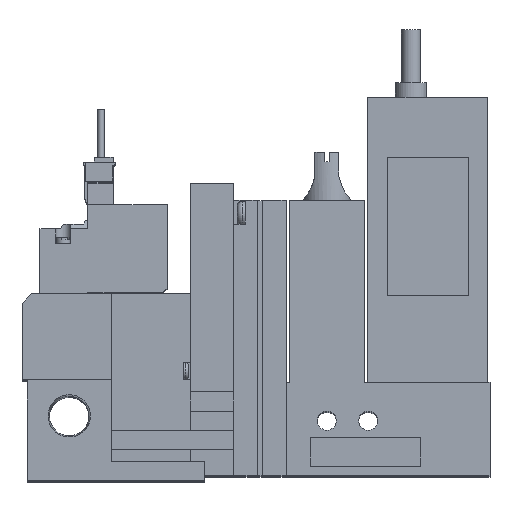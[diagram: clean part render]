
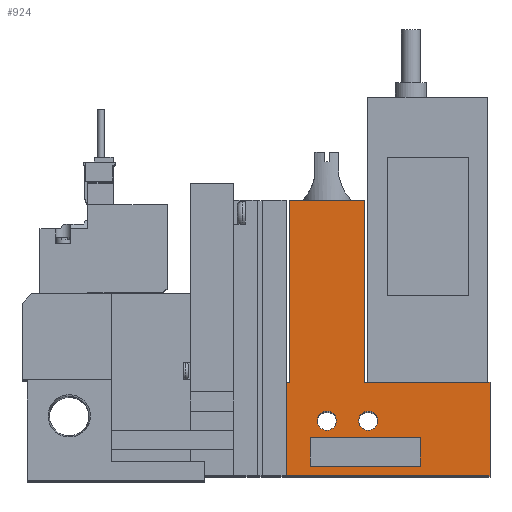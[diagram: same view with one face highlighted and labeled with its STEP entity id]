
A CAD part, top view. The second image highlights one B-rep face of the part: STEP entity #924.
In plain terms, the highlighted planar face has unit normal (0, 0, 1).
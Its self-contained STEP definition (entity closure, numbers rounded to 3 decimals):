
#924=ADVANCED_FACE('',(#1858,#1859,#1860,#1861),#1862,.T.);
#1858=FACE_BOUND('',#3113,.T.);
#1859=FACE_BOUND('',#3114,.T.);
#1860=FACE_BOUND('',#3115,.T.);
#1861=FACE_OUTER_BOUND('',#3116,.T.);
#1862=PLANE('',#3117);
#3113=EDGE_LOOP('',(#6427,#6428,#6429,#6430));
#3114=EDGE_LOOP('',(#6431));
#3115=EDGE_LOOP('',(#6432));
#3116=EDGE_LOOP('',(#6433,#6434,#6435,#6436,#6437,#6438,#6439,#6440));
#3117=AXIS2_PLACEMENT_3D('',#6441,#6442,#6443);
#6427=ORIENTED_EDGE('',*,*,#8479,.T.);
#6428=ORIENTED_EDGE('',*,*,#8628,.T.);
#6429=ORIENTED_EDGE('',*,*,#8535,.T.);
#6430=ORIENTED_EDGE('',*,*,#8370,.T.);
#6431=ORIENTED_EDGE('',*,*,#8392,.T.);
#6432=ORIENTED_EDGE('',*,*,#8397,.T.);
#6433=ORIENTED_EDGE('',*,*,#8505,.F.);
#6434=ORIENTED_EDGE('',*,*,#8584,.T.);
#6435=ORIENTED_EDGE('',*,*,#8488,.T.);
#6436=ORIENTED_EDGE('',*,*,#8473,.T.);
#6437=ORIENTED_EDGE('',*,*,#8629,.T.);
#6438=ORIENTED_EDGE('',*,*,#8598,.T.);
#6439=ORIENTED_EDGE('',*,*,#8497,.T.);
#6440=ORIENTED_EDGE('',*,*,#8630,.T.);
#6441=CARTESIAN_POINT('',(0.0,0.0,10.0));
#6442=DIRECTION('',(0.0,0.0,1.0));
#6443=DIRECTION('',(1.0,0.0,0.0));
#8370=EDGE_CURVE('',#10081,#10086,#10088,.T.);
#8392=EDGE_CURVE('',#10131,#10131,#10132,.T.);
#8397=EDGE_CURVE('',#10141,#10141,#10142,.T.);
#8473=EDGE_CURVE('',#10275,#10273,#10276,.T.);
#8479=EDGE_CURVE('',#10086,#10284,#10286,.T.);
#8488=EDGE_CURVE('',#10302,#10275,#10303,.T.);
#8497=EDGE_CURVE('',#10315,#10313,#10316,.T.);
#8505=EDGE_CURVE('',#10327,#10329,#10330,.T.);
#8535=EDGE_CURVE('',#10375,#10081,#10379,.T.);
#8584=EDGE_CURVE('',#10327,#10302,#10458,.T.);
#8598=EDGE_CURVE('',#10479,#10315,#10480,.T.);
#8628=EDGE_CURVE('',#10284,#10375,#10517,.T.);
#8629=EDGE_CURVE('',#10273,#10479,#10518,.T.);
#8630=EDGE_CURVE('',#10313,#10329,#10519,.T.);
#10081=VERTEX_POINT('',#12859);
#10086=VERTEX_POINT('',#12866);
#10088=LINE('',#12869,#12870);
#10131=VERTEX_POINT('',#12932);
#10132=CIRCLE('',#12933,2.0);
#10141=VERTEX_POINT('',#12946);
#10142=CIRCLE('',#12947,2.0);
#10273=VERTEX_POINT('',#13191);
#10275=VERTEX_POINT('',#13194);
#10276=LINE('',#13195,#13196);
#10284=VERTEX_POINT('',#13207);
#10286=LINE('',#13210,#13211);
#10302=VERTEX_POINT('',#13233);
#10303=LINE('',#13234,#13235);
#10313=VERTEX_POINT('',#13250);
#10315=VERTEX_POINT('',#13253);
#10316=LINE('',#13254,#13255);
#10327=VERTEX_POINT('',#13272);
#10329=VERTEX_POINT('',#13275);
#10330=LINE('',#13276,#13277);
#10375=VERTEX_POINT('',#13346);
#10379=LINE('',#13352,#13353);
#10458=LINE('',#13479,#13480);
#10479=VERTEX_POINT('',#13510);
#10480=LINE('',#13511,#13512);
#10517=LINE('',#13576,#13577);
#10518=LINE('',#13578,#13579);
#10519=LINE('',#13580,#13581);
#12859=CARTESIAN_POINT('',(83.1,2.0,10.0));
#12866=CARTESIAN_POINT('',(60.1,2.0,10.0));
#12869=CARTESIAN_POINT('',(0.0,2.0,10.0));
#12870=VECTOR('',#15447,1.0);
#12932=CARTESIAN_POINT('',(65.6,11.5,10.0));
#12933=AXIS2_PLACEMENT_3D('',#15473,#15474,#15475);
#12946=CARTESIAN_POINT('',(74.2,11.5,10.0));
#12947=AXIS2_PLACEMENT_3D('',#15480,#15481,#15482);
#13191=CARTESIAN_POINT('',(71.45,19.5,10.0));
#13194=CARTESIAN_POINT('',(97.6,19.5,10.0));
#13195=CARTESIAN_POINT('',(97.6,19.5,10.0));
#13196=VECTOR('',#15574,1.0);
#13207=CARTESIAN_POINT('',(60.1,8.0,10.0));
#13210=CARTESIAN_POINT('',(60.1,0.0,10.0));
#13211=VECTOR('',#15582,1.0);
#13233=CARTESIAN_POINT('',(97.6,0.0,10.0));
#13234=CARTESIAN_POINT('',(97.6,0.0,10.0));
#13235=VECTOR('',#15595,1.0);
#13250=CARTESIAN_POINT('',(55.75,19.5,10.0));
#13253=CARTESIAN_POINT('',(55.75,57.5,10.0));
#13254=CARTESIAN_POINT('',(55.75,57.5,10.0));
#13255=VECTOR('',#15608,1.0);
#13272=CARTESIAN_POINT('',(55.1,0.0,10.0));
#13275=CARTESIAN_POINT('',(55.1,19.5,10.0));
#13276=CARTESIAN_POINT('',(55.1,0.0,10.0));
#13277=VECTOR('',#15616,1.0);
#13346=CARTESIAN_POINT('',(83.1,8.0,10.0));
#13352=CARTESIAN_POINT('',(83.1,0.0,10.0));
#13353=VECTOR('',#15652,1.0);
#13479=CARTESIAN_POINT('',(18.6,0.0,10.0));
#13480=VECTOR('',#15703,1.0);
#13510=CARTESIAN_POINT('',(71.45,57.5,10.0));
#13511=CARTESIAN_POINT('',(71.45,57.5,10.0));
#13512=VECTOR('',#15725,1.0);
#13576=CARTESIAN_POINT('',(0.0,8.0,10.0));
#13577=VECTOR('',#15759,1.0);
#13578=CARTESIAN_POINT('',(71.45,19.5,10.0));
#13579=VECTOR('',#15760,1.0);
#13580=CARTESIAN_POINT('',(55.75,19.5,10.0));
#13581=VECTOR('',#15761,1.0);
#15447=DIRECTION('',(-1.0,0.0,0.0));
#15473=CARTESIAN_POINT('',(63.6,11.5,10.0));
#15474=DIRECTION('',(0.0,0.0,-1.0));
#15475=DIRECTION('',(1.0,0.0,0.0));
#15480=CARTESIAN_POINT('',(72.2,11.5,10.0));
#15481=DIRECTION('',(0.0,0.0,-1.0));
#15482=DIRECTION('',(1.0,0.0,0.0));
#15574=DIRECTION('',(-1.0,0.0,0.0));
#15582=DIRECTION('',(0.0,1.0,0.0));
#15595=DIRECTION('',(0.0,1.0,0.0));
#15608=DIRECTION('',(0.0,-1.0,0.0));
#15616=DIRECTION('',(0.0,1.0,0.0));
#15652=DIRECTION('',(0.0,-1.0,0.0));
#15703=DIRECTION('',(1.0,0.0,0.0));
#15725=DIRECTION('',(-1.0,0.0,0.0));
#15759=DIRECTION('',(1.0,0.0,0.0));
#15760=DIRECTION('',(0.0,1.0,0.0));
#15761=DIRECTION('',(-1.0,0.0,0.0));
